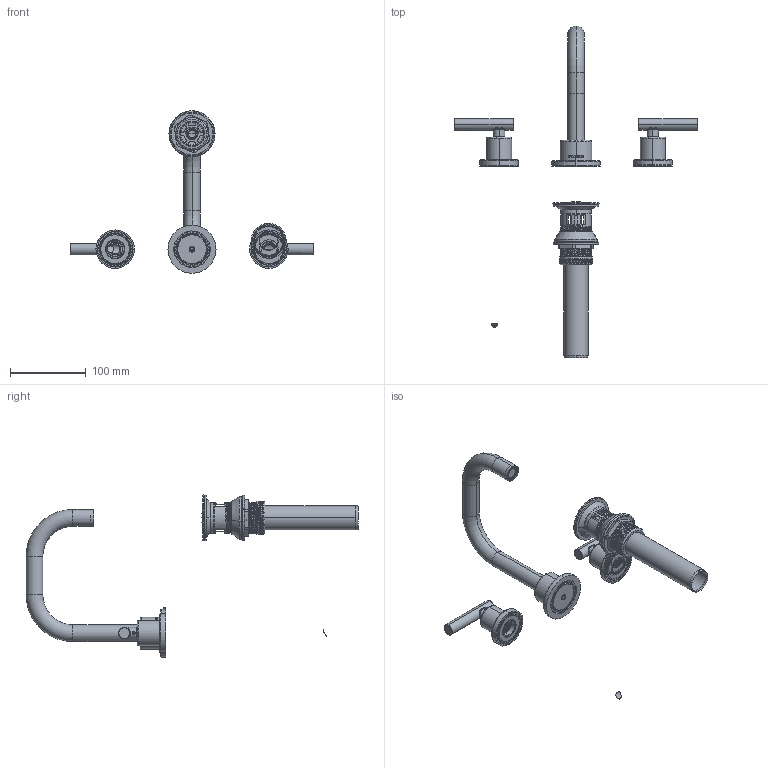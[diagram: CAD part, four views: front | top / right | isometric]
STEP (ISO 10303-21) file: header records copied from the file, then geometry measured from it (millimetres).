
FILE_DESCRIPTION (( 'STEP AP203' ), '1' );
FILE_NAME ('SLW3512PP.STEP', '2025-01-28T16:40:07', ( '' ), ( '' ), 'SwSTEP 2.0', 'SolidWorks 2023', '' );
FILE_SCHEMA (( 'CONFIG_CONTROL_DESIGN' ));
Length unit declared in the file: inch
Products named in the file (1): SLW3512PP
Bounding box: 322.28 x 438.85 x 214.65 mm (x, y, z)
Surface area: 143810.8 mm2 (no closed solid volume)
Topology: 0 solids, 105 shells, 485 faces, 1943 edges, 1559 vertices
Faces by surface type: cylinder 199, plane 123, bspline 70, torus 51, cone 42
Entity records: 54733 total; most frequent: CARTESIAN_POINT 39674, DIRECTION 2933, ORIENTED_EDGE 2738, EDGE_CURVE 1941, VERTEX_POINT 1559, AXIS2_PLACEMENT_3D 1146, CIRCLE 730, LINE 641
